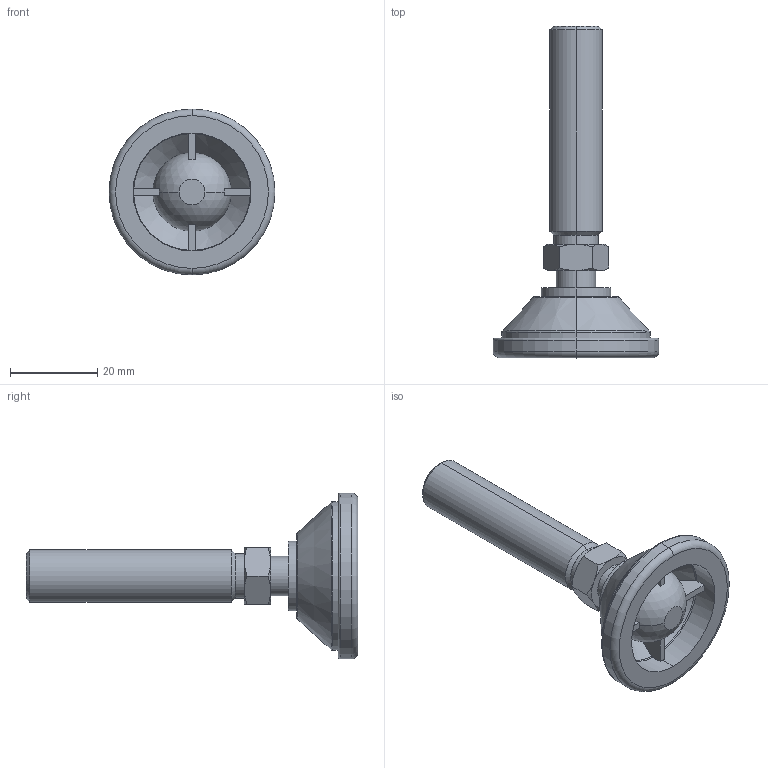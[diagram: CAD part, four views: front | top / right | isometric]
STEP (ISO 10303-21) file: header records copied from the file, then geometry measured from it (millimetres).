
FILE_DESCRIPTION (( 'STEP AP203' ), '1' );
FILE_NAME ('3472.W120.step', '2009-10-21T16:59:38', ( 'Wixroyd' ), ( 'Wixroyd' ), 'SwSTEP 2.0', 'SolidWorks 2009', '' );
FILE_SCHEMA (( 'CONFIG_CONTROL_DESIGN' ));
Length unit declared in the file: millimetre
Products named in the file (3): Part1_3472W120; Part2_3472W120; 3472.W120
Assembly tree (2 placements, depth 2):
  3472.W120
    Part2_3472W120
    Part1_3472W120
Bounding box: 38 x 76 x 38 mm (x, y, z)
Volume: 14763 mm3; surface area: 7986.8 mm2
Topology: 2 solids, 2 shells, 83 faces, 202 edges, 126 vertices
Faces by surface type: plane 27, cone 22, cylinder 16, torus 12, sphere 6
Entity records: 2825 total; most frequent: CARTESIAN_POINT 610, DIRECTION 438, ORIENTED_EDGE 386, AXIS2_PLACEMENT_3D 197, EDGE_CURVE 193, VERTEX_POINT 121, CIRCLE 109, EDGE_LOOP 90
